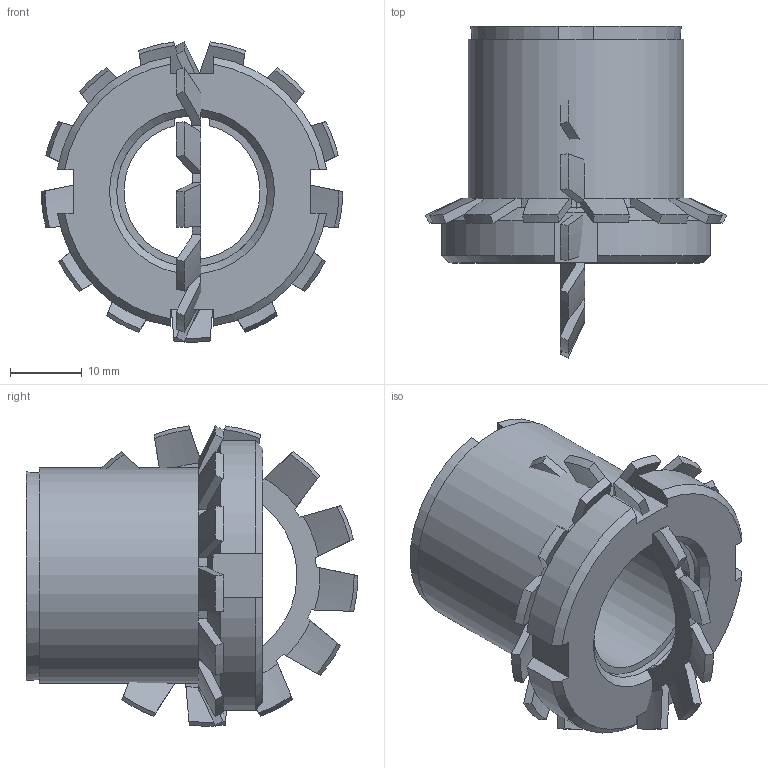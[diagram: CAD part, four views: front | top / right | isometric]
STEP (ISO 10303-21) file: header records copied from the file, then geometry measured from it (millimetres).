
FILE_DESCRIPTION( ( 'Unknown' ), '1' );
FILE_NAME( 'C:/Dokumente und Einstellungen/Sven/Desktop/homepage/cad - homepage/KBS55/KBS 55 - 19 x 30.stp', 'Unknown', ( 'Unknown' ), ( 'Unknown' ), 'XStep 1.0', 'Unknown', ' ' );
FILE_SCHEMA( ( 'automotive_design' ) );
Length unit declared in the file: millimetre
Products named in the file (3): Assem1; KBS 55 - 19 x 30; 08570053_locking_plate_din_5406_mb_5_2_14a
Bounding box: 42 x 46.25 x 41.83 mm (x, y, z)
Volume: 32931.8 mm3; surface area: 17443.7 mm2
Topology: 4 solids, 4 shells, 240 faces, 688 edges, 456 vertices
Faces by surface type: plane 104, cone 94, cylinder 42
Full cylindrical faces by diameter (mm): 21 x2, 30 x2
Entity records: 4268 total; most frequent: CARTESIAN_POINT 879, ORIENTED_EDGE 676, DIRECTION 640, EDGE_CURVE 338, AXIS2_PLACEMENT_3D 253, VERTEX_POINT 226, LINE 134, VECTOR 134
